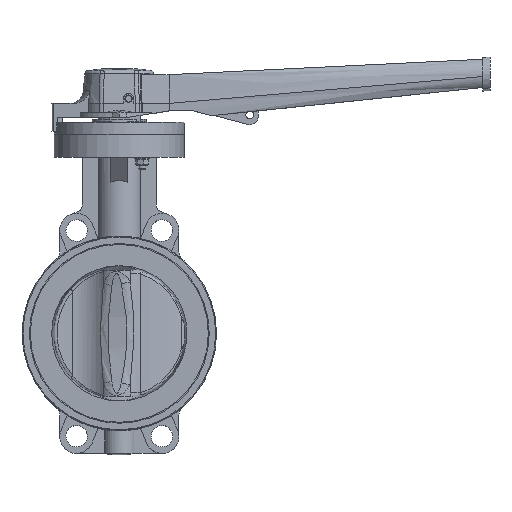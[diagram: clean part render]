
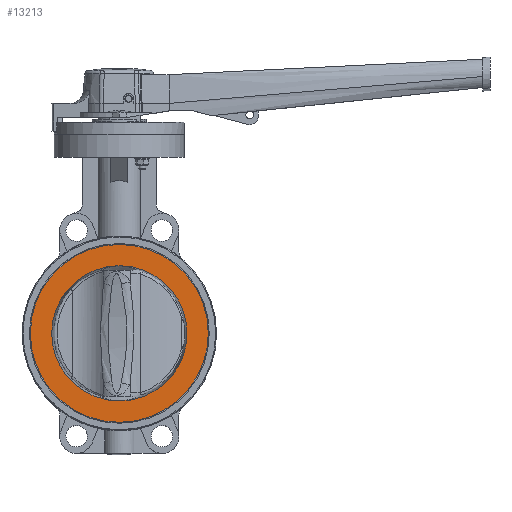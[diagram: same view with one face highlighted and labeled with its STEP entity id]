
A CAD part, top view. The second image highlights one B-rep face of the part: STEP entity #13213.
In plain terms, the highlighted planar face has unit normal (0, 0, 1).
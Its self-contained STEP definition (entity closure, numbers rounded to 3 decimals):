
#518=PLANE('',#14102);
#2380=B_SPLINE_CURVE_WITH_KNOTS('',3,(#18113,#18114,#18115,#18116,#18117,
#18118,#18119,#18120,#18121,#18122,#18123,#18124,#18125,#18126,#18127,#18128,
#18129,#18130,#18131,#18132,#18133,#18134),.UNSPECIFIED.,.F.,.F.,(4,2,2,
2,2,2,2,2,2,2,4),(0.,0.029,0.129,0.144,
0.151,0.156,0.162,0.171,
0.201,0.269,0.311),.UNSPECIFIED.);
#2414=B_SPLINE_CURVE_WITH_KNOTS('',3,(#18691,#18692,#18693,#18694,#18695,
#18696,#18697,#18698,#18699,#18700,#18701,#18702,#18703,#18704,#18705,#18706,
#18707,#18708,#18709,#18710,#18711,#18712),.UNSPECIFIED.,.F.,.F.,(4,2,2,
2,2,2,2,2,2,2,4),(0.,0.029,0.129,0.144,
0.151,0.156,0.162,0.171,
0.201,0.269,0.311),.UNSPECIFIED.);
#3424=FACE_BOUND('',#4445,.T.);
#3629=FACE_OUTER_BOUND('',#4444,.T.);
#4444=EDGE_LOOP('',(#9575));
#4445=EDGE_LOOP('',(#9576,#9577,#9578,#9579));
#5272=CIRCLE('',#14087,73.);
#5275=CIRCLE('',#14093,73.);
#5278=CIRCLE('',#14103,96.);
#5673=VERTEX_POINT('',#18111);
#5674=VERTEX_POINT('',#18112);
#5697=VERTEX_POINT('',#18427);
#5702=VERTEX_POINT('',#18468);
#5713=VERTEX_POINT('',#18768);
#7159=EDGE_CURVE('',#5673,#5674,#2380,.F.);
#7191=EDGE_CURVE('',#5673,#5697,#5272,.T.);
#7199=EDGE_CURVE('',#5702,#5674,#5275,.T.);
#7209=EDGE_CURVE('',#5702,#5697,#2414,.F.);
#7219=EDGE_CURVE('',#5713,#5713,#5278,.T.);
#9575=ORIENTED_EDGE('',*,*,#7219,.T.);
#9576=ORIENTED_EDGE('',*,*,#7199,.F.);
#9577=ORIENTED_EDGE('',*,*,#7209,.T.);
#9578=ORIENTED_EDGE('',*,*,#7191,.F.);
#9579=ORIENTED_EDGE('',*,*,#7159,.T.);
#13213=ADVANCED_FACE('',(#3629,#3424),#518,.T.);
#14087=AXIS2_PLACEMENT_3D('',#18428,#15328,#15329);
#14093=AXIS2_PLACEMENT_3D('',#18479,#15341,#15342);
#14102=AXIS2_PLACEMENT_3D('',#18767,#15362,#15363);
#14103=AXIS2_PLACEMENT_3D('',#18769,#15364,#15365);
#15328=DIRECTION('center_axis',(0.,0.,1.));
#15329=DIRECTION('ref_axis',(-1.,0.,0.));
#15341=DIRECTION('center_axis',(0.,0.,1.));
#15342=DIRECTION('ref_axis',(-1.,0.,0.));
#15362=DIRECTION('center_axis',(0.,0.,1.));
#15363=DIRECTION('ref_axis',(1.,0.,0.));
#15364=DIRECTION('center_axis',(0.,0.,1.));
#15365=DIRECTION('ref_axis',(-1.,0.,0.));
#18111=CARTESIAN_POINT('',(1.556,-72.983,35.75));
#18112=CARTESIAN_POINT('',(-1.556,-72.983,35.75));
#18113=CARTESIAN_POINT('Ctrl Pts',(-1.556,-72.983,
35.75));
#18114=CARTESIAN_POINT('Ctrl Pts',(-1.46,-72.985,
35.75));
#18115=CARTESIAN_POINT('Ctrl Pts',(-1.363,-72.987,
35.75));
#18116=CARTESIAN_POINT('Ctrl Pts',(-0.932,-72.994,
35.75));
#18117=CARTESIAN_POINT('Ctrl Pts',(-0.589,-72.997,
35.75));
#18118=CARTESIAN_POINT('Ctrl Pts',(-0.207,-72.998,
35.75));
#18119=CARTESIAN_POINT('Ctrl Pts',(-0.158,-72.999,
35.75));
#18120=CARTESIAN_POINT('Ctrl Pts',(-0.087,-72.999,
35.75));
#18121=CARTESIAN_POINT('Ctrl Pts',(-0.064,-72.999,
35.75));
#18122=CARTESIAN_POINT('Ctrl Pts',(-0.023,-72.999,
35.75));
#18123=CARTESIAN_POINT('Ctrl Pts',(-0.006,-72.999,
35.75));
#18124=CARTESIAN_POINT('Ctrl Pts',(0.031,-72.999,
35.75));
#18125=CARTESIAN_POINT('Ctrl Pts',(0.05,-72.999,
35.75));
#18126=CARTESIAN_POINT('Ctrl Pts',(0.1,-72.999,
35.75));
#18127=CARTESIAN_POINT('Ctrl Pts',(0.131,-72.999,35.75));
#18128=CARTESIAN_POINT('Ctrl Pts',(0.259,-72.998,
35.75));
#18129=CARTESIAN_POINT('Ctrl Pts',(0.357,-72.998,35.75));
#18130=CARTESIAN_POINT('Ctrl Pts',(0.681,-72.996,
35.75));
#18131=CARTESIAN_POINT('Ctrl Pts',(0.911,-72.994,
35.75));
#18132=CARTESIAN_POINT('Ctrl Pts',(1.277,-72.989,35.75));
#18133=CARTESIAN_POINT('Ctrl Pts',(1.417,-72.986,35.75));
#18134=CARTESIAN_POINT('Ctrl Pts',(1.556,-72.983,35.75));
#18427=CARTESIAN_POINT('',(1.556,72.983,35.75));
#18428=CARTESIAN_POINT('Origin',(0.,0.,35.75));
#18468=CARTESIAN_POINT('',(-1.556,72.983,35.75));
#18479=CARTESIAN_POINT('Origin',(0.,0.,35.75));
#18691=CARTESIAN_POINT('Ctrl Pts',(1.556,72.983,35.75));
#18692=CARTESIAN_POINT('Ctrl Pts',(1.46,72.985,35.75));
#18693=CARTESIAN_POINT('Ctrl Pts',(1.363,72.987,35.75));
#18694=CARTESIAN_POINT('Ctrl Pts',(0.932,72.994,35.75));
#18695=CARTESIAN_POINT('Ctrl Pts',(0.589,72.997,35.75));
#18696=CARTESIAN_POINT('Ctrl Pts',(0.207,72.998,35.75));
#18697=CARTESIAN_POINT('Ctrl Pts',(0.158,72.999,35.75));
#18698=CARTESIAN_POINT('Ctrl Pts',(0.087,72.999,
35.75));
#18699=CARTESIAN_POINT('Ctrl Pts',(0.064,72.999,
35.75));
#18700=CARTESIAN_POINT('Ctrl Pts',(0.023,72.999,
35.75));
#18701=CARTESIAN_POINT('Ctrl Pts',(0.006,72.999,
35.75));
#18702=CARTESIAN_POINT('Ctrl Pts',(-0.031,72.999,
35.75));
#18703=CARTESIAN_POINT('Ctrl Pts',(-0.05,72.999,
35.75));
#18704=CARTESIAN_POINT('Ctrl Pts',(-0.1,72.999,
35.75));
#18705=CARTESIAN_POINT('Ctrl Pts',(-0.131,72.999,
35.75));
#18706=CARTESIAN_POINT('Ctrl Pts',(-0.259,72.998,
35.75));
#18707=CARTESIAN_POINT('Ctrl Pts',(-0.357,72.998,
35.75));
#18708=CARTESIAN_POINT('Ctrl Pts',(-0.681,72.996,
35.75));
#18709=CARTESIAN_POINT('Ctrl Pts',(-0.911,72.994,35.75));
#18710=CARTESIAN_POINT('Ctrl Pts',(-1.277,72.989,35.75));
#18711=CARTESIAN_POINT('Ctrl Pts',(-1.417,72.986,35.75));
#18712=CARTESIAN_POINT('Ctrl Pts',(-1.556,72.983,35.75));
#18767=CARTESIAN_POINT('Origin',(0.,0.,
35.75));
#18768=CARTESIAN_POINT('',(96.,0.,35.75));
#18769=CARTESIAN_POINT('Origin',(0.,0.,35.75));
